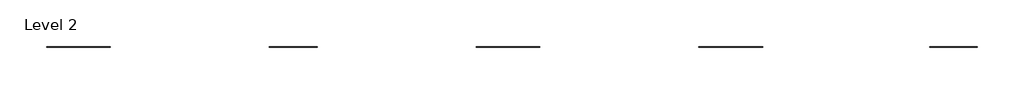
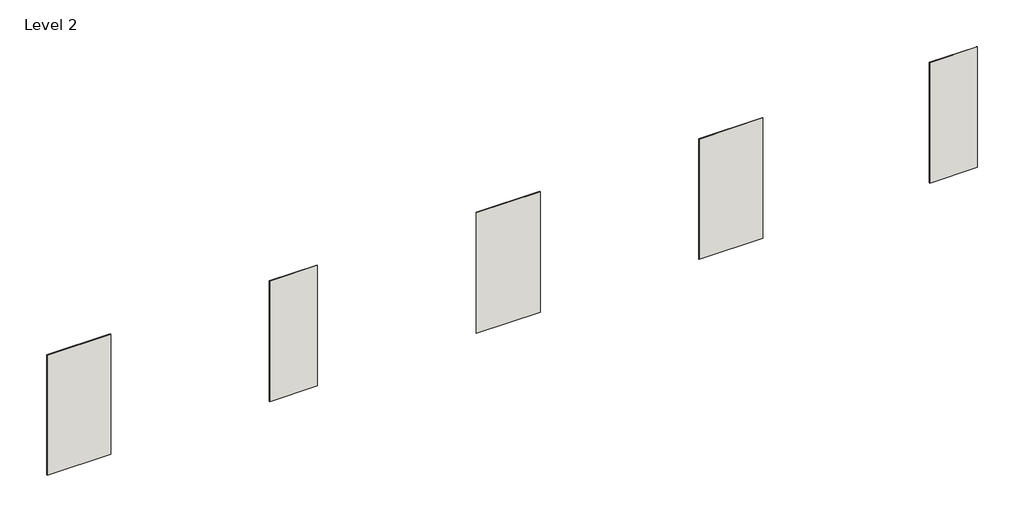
# One storey: 5 walls.
"""IFC4 building model written with IfcOpenShell, lengths in millimetres."""

from ifc_helpers import new_model, si_unit, frame, origin, place, context, project, spatial, polyline, outline, extrude, element, save

model = new_model("IFC4")

# Units and contexts
model_context = context("Model", 3, world=origin())
ifc_project = project(units=[si_unit("LENGTHUNIT", "METRE", prefix="MILLI")], contexts=[model_context])

# Site, building, storey
site = spatial("IfcSite", under=ifc_project)
building = spatial("IfcBuilding", under=site)
storey = spatial("IfcBuildingStorey", under=building, Name="Level 2", Elevation=4000.0)

# Walls
placement = place(None, origin())
element("IfcWall", 1, ObjectType="Fermacell - Gypsum Fibreboard 12,5mm 1200x1200 Tapered Edge", at=placement, inside=storey, context=model_context, shape_type="SweptSolid", body=[
    extrude(outline(polyline([(-682.735738, -1243.4630659), (-1882.735738, -1243.4630659), (-1882.735738, -1230.9630659), (-682.735738, -1230.9630659), (-682.735738, -1243.4630659)])), frame((0.0, 0.0, -417.1974511), z_axis=(0.0, 0.0, 1.0), x_axis=(1.0, 0.0, 0.0)), (0.0, 0.0, 1.0), 2400.0),
])
element("IfcWall", 2, ObjectType="Fermacell - Gypsum Fibreboard 12,5mm 600x2400 Tapered Edge", at=placement, inside=storey, context=model_context, shape_type="SweptSolid", body=[
    extrude(outline(polyline([(-4882.735738, -1243.4630659), (-6082.735738, -1243.4630659), (-6082.735738, -1230.9630659), (-4882.735738, -1230.9630659), (-4882.735738, -1243.4630659)])), frame((0.0, 0.0, -417.1974511), z_axis=(0.0, 0.0, 1.0), x_axis=(1.0, 0.0, 0.0)), (0.0, 0.0, 1.0), 2400.0),
])
element("IfcWall", 3, ObjectType="Fermacell - Gypsum Fibreboard 12,5mm 900x1200 Tapered Edge", at=placement, inside=storey, context=model_context, shape_type="SweptSolid", body=[
    extrude(outline(polyline([(-9082.735738, -1243.4630659), (-9982.735738, -1243.4630659), (-9982.735738, -1230.9630659), (-9082.735738, -1230.9630659), (-9082.735738, -1243.4630659)])), frame((0.0, 0.0, -417.1974511), z_axis=(0.0, 0.0, 1.0), x_axis=(1.0, 0.0, 0.0)), (0.0, 0.0, 1.0), 2400.0),
])
element("IfcWall", 4, ObjectType="Fermacell - Gypsum Fibreboard 15mm 600x2400 Tapered Edge", at=placement, inside=storey, context=model_context, shape_type="SweptSolid", body=[
    extrude(outline(polyline([(-12982.735738, -1244.7130659), (-14182.735738, -1244.7130659), (-14182.735738, -1229.7130659), (-12982.735738, -1229.7130659), (-12982.735738, -1244.7130659)])), frame((0.0, 0.0, -417.1974511), z_axis=(0.0, 0.0, 1.0), x_axis=(1.0, 0.0, 0.0)), (0.0, 0.0, 1.0), 2400.0),
])
element("IfcWall", 5, ObjectType="Fermacell - Gypsum Fibreboard 10mm 900x1200 Tapered Edge", at=placement, inside=storey, context=model_context, shape_type="SweptSolid", body=[
    extrude(outline(polyline([(3367.264262, -1242.2130659), (2467.264262, -1242.2130659), (2467.264262, -1232.2130659), (3367.264262, -1232.2130659), (3367.264262, -1242.2130659)])), frame((0.0, 0.0, -417.1974511), z_axis=(0.0, 0.0, 1.0), x_axis=(1.0, 0.0, 0.0)), (0.0, 0.0, 1.0), 2400.0),
])

save(model, "model.ifc")
